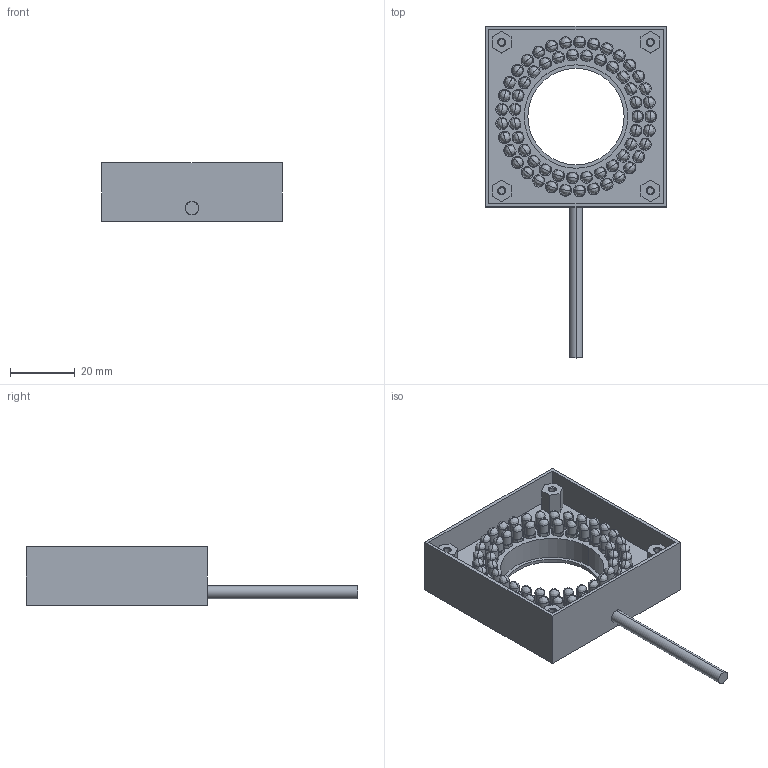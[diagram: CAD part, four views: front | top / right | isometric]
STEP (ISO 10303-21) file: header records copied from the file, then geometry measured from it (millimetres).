
FILE_DESCRIPTION (( 'STEP AP214' ), '1' );
FILE_NAME ('CV-SQ-56X56X30.STEP', '2014-05-27T12:40:16', ( '' ), ( '' ), 'SwSTEP 2.0', 'SolidWorks 2011', '' );
FILE_SCHEMA (( 'AUTOMOTIVE_DESIGN' ));
Length unit declared in the file: millimetre
Products named in the file (1): CV-SQ-56X56X30
Bounding box: 56 x 102.7 x 18 mm (x, y, z)
Volume: 24881.9 mm3; surface area: 16058.4 mm2
Topology: 1 solids, 1 shells, 694 faces, 1824 edges, 1152 vertices
Faces by surface type: cylinder 324, plane 222, bspline 120, cone 28
Entity records: 22538 total; most frequent: CARTESIAN_POINT 5591, DIRECTION 3754, ORIENTED_EDGE 3408, EDGE_CURVE 1704, AXIS2_PLACEMENT_3D 1507, VERTEX_POINT 1152, CIRCLE 932, EDGE_LOOP 836
